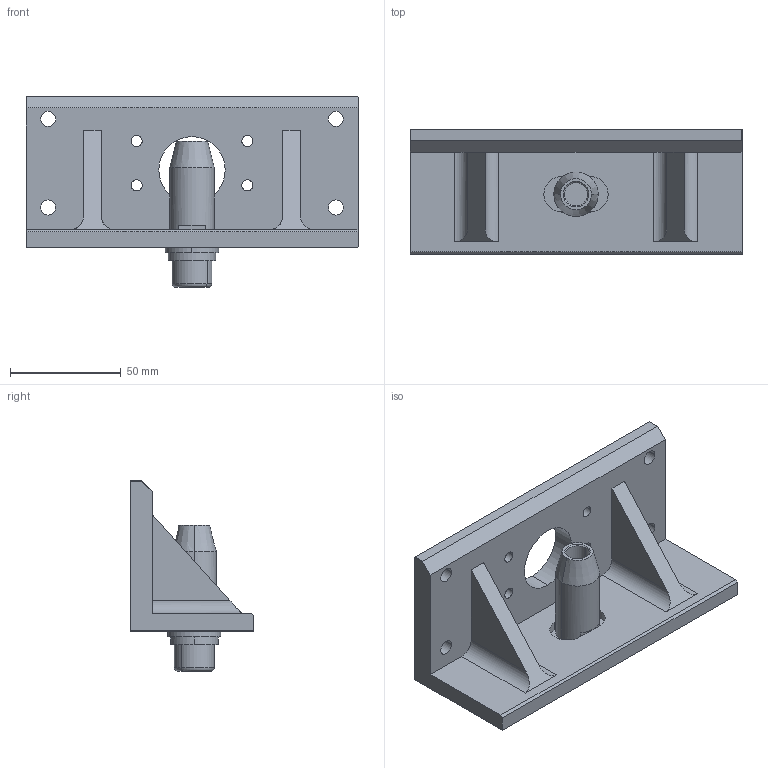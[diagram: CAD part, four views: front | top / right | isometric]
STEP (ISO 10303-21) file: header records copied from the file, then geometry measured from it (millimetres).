
FILE_DESCRIPTION (( 'STEP AP214' ), '1' );
FILE_NAME ('QCL35G-S.STEP', '2023-03-15T02:49:06', ( 'Windows User' ), ( 'P R C' ), 'SwSTEP 2.0', 'SolidWorks 2019', '' );
FILE_SCHEMA (( 'AUTOMOTIVE_DESIGN' ));
Length unit declared in the file: millimetre
Products named in the file (1): QCL35G-S
Bounding box: 150 x 56 x 86 mm (x, y, z)
Volume: 174431.8 mm3; surface area: 51198.5 mm2
Topology: 5 solids, 5 shells, 214 faces, 483 edges, 281 vertices
Faces by surface type: cone 82, cylinder 78, plane 52, torus 2
Entity records: 8361 total; most frequent: DIRECTION 1119, CARTESIAN_POINT 1001, ORIENTED_EDGE 962, EDGE_CURVE 481, AXIS2_PLACEMENT_3D 431, VERTEX_POINT 281, LINE 257, VECTOR 257
